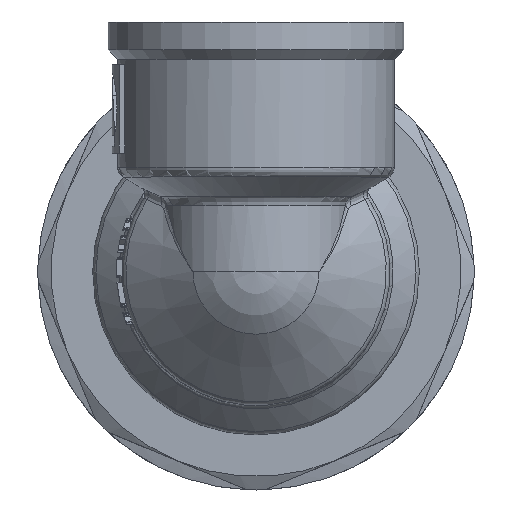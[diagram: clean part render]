
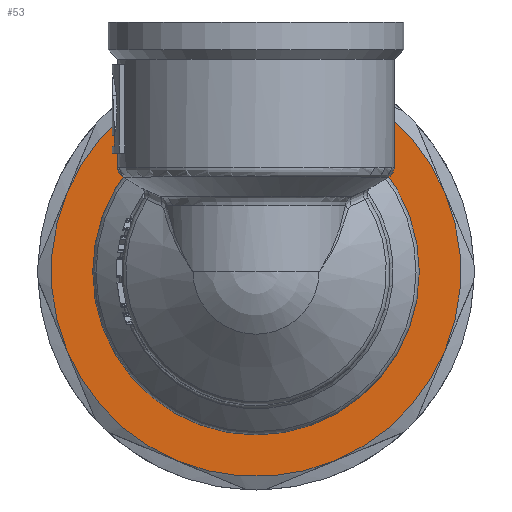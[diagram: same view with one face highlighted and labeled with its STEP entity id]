
A CAD part, top view. The second image highlights one B-rep face of the part: STEP entity #53.
In plain terms, the highlighted planar face has unit normal (0, 0, 1).
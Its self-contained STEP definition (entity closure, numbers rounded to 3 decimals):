
#53=ADVANCED_FACE('',(#274,#276),#278,.F.);
#274=FACE_BOUND('',#275,.T.);
#275=EDGE_LOOP('',(#2454,#2455,#2456,#2457,#2458,#2459,#2460,#2461));
#276=FACE_BOUND('',#277,.T.);
#277=EDGE_LOOP('',(#2462));
#278=PLANE('',#279);
#279=AXIS2_PLACEMENT_3D('',#280,#281,#282);
#280=CARTESIAN_POINT('',(0.,0.,-15.9));
#281=DIRECTION('',(0.,0.,-1.));
#282=DIRECTION('',(-1.,0.,0.));
#2454=ORIENTED_EDGE('',*,*,#3752,.T.);
#2455=ORIENTED_EDGE('',*,*,#3753,.T.);
#2456=ORIENTED_EDGE('',*,*,#3754,.T.);
#2457=ORIENTED_EDGE('',*,*,#3755,.T.);
#2458=ORIENTED_EDGE('',*,*,#3756,.T.);
#2459=ORIENTED_EDGE('',*,*,#3757,.T.);
#2460=ORIENTED_EDGE('',*,*,#3758,.T.);
#2461=ORIENTED_EDGE('',*,*,#3759,.T.);
#2462=ORIENTED_EDGE('',*,*,#3760,.T.);
#3752=EDGE_CURVE('',#4302,#4303,#4304,.F.);
#3753=EDGE_CURVE('',#4303,#4305,#4306,.F.);
#3754=EDGE_CURVE('',#4305,#4307,#4308,.F.);
#3755=EDGE_CURVE('',#4307,#4309,#4310,.F.);
#3756=EDGE_CURVE('',#4309,#4311,#4312,.F.);
#3757=EDGE_CURVE('',#4311,#4313,#4314,.F.);
#3758=EDGE_CURVE('',#4313,#4315,#4316,.F.);
#3759=EDGE_CURVE('',#4315,#4302,#4317,.F.);
#3760=EDGE_CURVE('',#4318,#4318,#4319,.F.);
#4302=VERTEX_POINT('',#5221);
#4303=VERTEX_POINT('',#5222);
#4304=CIRCLE('',#5223,18.5);
#4305=VERTEX_POINT('',#5227);
#4306=CIRCLE('',#5228,18.5);
#4307=VERTEX_POINT('',#5232);
#4308=CIRCLE('',#5233,18.5);
#4309=VERTEX_POINT('',#5237);
#4310=CIRCLE('',#5238,18.5);
#4311=VERTEX_POINT('',#5242);
#4312=CIRCLE('',#5243,18.5);
#4313=VERTEX_POINT('',#5247);
#4314=CIRCLE('',#5248,18.5);
#4315=VERTEX_POINT('',#5252);
#4316=CIRCLE('',#5253,18.5);
#4317=CIRCLE('',#5257,18.5);
#4318=VERTEX_POINT('',#5261);
#4319=CIRCLE('',#5262,14.75);
#5221=CARTESIAN_POINT('',(17.092,-7.08,-15.9));
#5222=CARTESIAN_POINT('',(17.092,7.08,-15.9));
#5223=AXIS2_PLACEMENT_3D('',#5224,#5225,#5226);
#5224=CARTESIAN_POINT('',(0.,0.,-15.9));
#5225=DIRECTION('',(0.,0.,-1.));
#5226=DIRECTION('',(0.924,0.383,0.));
#5227=CARTESIAN_POINT('',(7.08,17.092,-15.9));
#5228=AXIS2_PLACEMENT_3D('',#5229,#5230,#5231);
#5229=CARTESIAN_POINT('',(0.,0.,-15.9));
#5230=DIRECTION('',(0.,0.,-1.));
#5231=DIRECTION('',(0.383,0.924,0.));
#5232=CARTESIAN_POINT('',(-7.08,17.092,-15.9));
#5233=AXIS2_PLACEMENT_3D('',#5234,#5235,#5236);
#5234=CARTESIAN_POINT('',(0.,0.,-15.9));
#5235=DIRECTION('',(0.,0.,-1.));
#5236=DIRECTION('',(-0.383,0.924,0.));
#5237=CARTESIAN_POINT('',(-17.092,7.08,-15.9));
#5238=AXIS2_PLACEMENT_3D('',#5239,#5240,#5241);
#5239=CARTESIAN_POINT('',(0.,0.,-15.9));
#5240=DIRECTION('',(0.,0.,-1.));
#5241=DIRECTION('',(-0.924,0.383,0.));
#5242=CARTESIAN_POINT('',(-17.092,-7.08,-15.9));
#5243=AXIS2_PLACEMENT_3D('',#5244,#5245,#5246);
#5244=CARTESIAN_POINT('',(0.,0.,-15.9));
#5245=DIRECTION('',(0.,0.,-1.));
#5246=DIRECTION('',(-0.924,-0.383,0.));
#5247=CARTESIAN_POINT('',(-7.08,-17.092,-15.9));
#5248=AXIS2_PLACEMENT_3D('',#5249,#5250,#5251);
#5249=CARTESIAN_POINT('',(0.,0.,-15.9));
#5250=DIRECTION('',(0.,0.,-1.));
#5251=DIRECTION('',(-0.383,-0.924,0.));
#5252=CARTESIAN_POINT('',(7.08,-17.092,-15.9));
#5253=AXIS2_PLACEMENT_3D('',#5254,#5255,#5256);
#5254=CARTESIAN_POINT('',(0.,0.,-15.9));
#5255=DIRECTION('',(0.,0.,-1.));
#5256=DIRECTION('',(0.383,-0.924,0.));
#5257=AXIS2_PLACEMENT_3D('',#5258,#5259,#5260);
#5258=CARTESIAN_POINT('',(0.,0.,-15.9));
#5259=DIRECTION('',(0.,0.,-1.));
#5260=DIRECTION('',(0.924,-0.383,0.));
#5261=CARTESIAN_POINT('',(0.,14.75,-15.9));
#5262=AXIS2_PLACEMENT_3D('',#5263,#5264,#5265);
#5263=CARTESIAN_POINT('',(0.,0.,-15.9));
#5264=DIRECTION('',(0.,0.,1.));
#5265=DIRECTION('',(0.,1.,0.));
